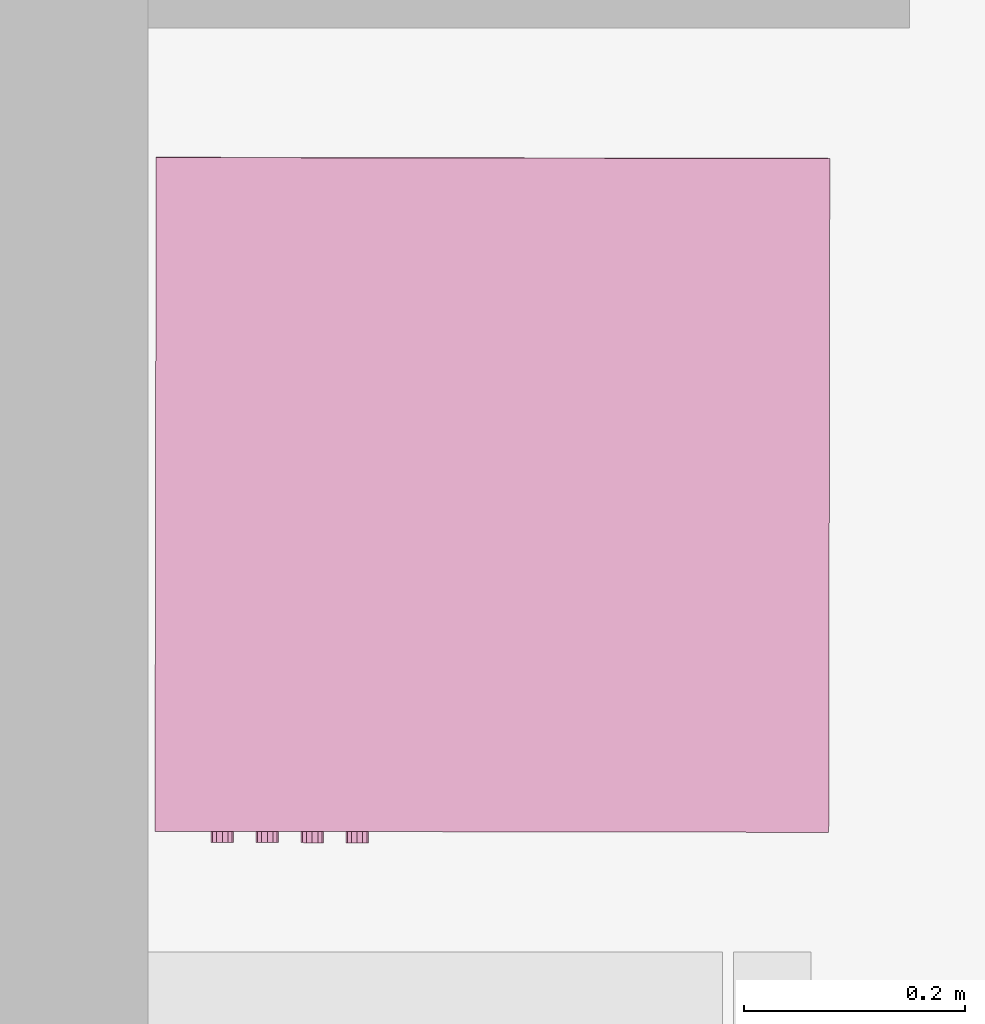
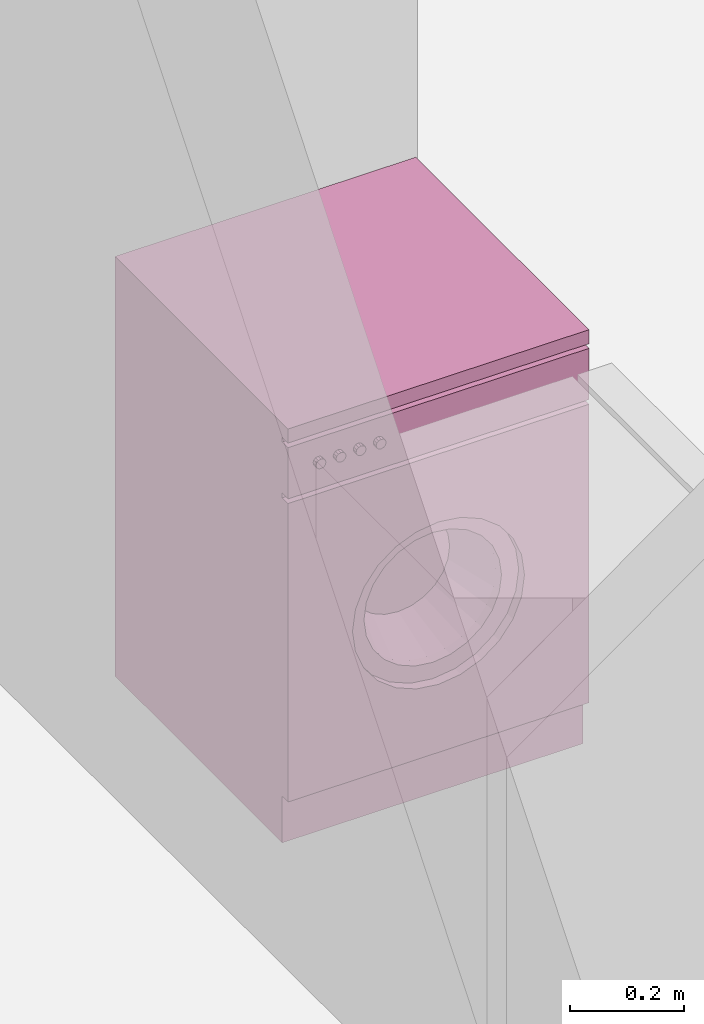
# One storey, part 123 of 164: 1 furnishing.
"""IFC2X3 building model written with IfcOpenShell, lengths in millimetres."""

from ifc_helpers import new_model, entity, si_unit, converted_unit, derived_unit, money_unit, direction, frame, origin_with_axes, place, context, subcontext, project, spatial, open_shell, faceted_brep, surface_model, source, transform, mapped, type_object, element, save


model = new_model("IFC2X3")

# Units and contexts
model_context = context("Model", 3, precision=0.01, world=origin_with_axes(), true_north=direction((0.0, 1.0)))
body_context = subcontext(model_context, "Body", "Model", "MODEL_VIEW")
ifc_project = project(units=[si_unit("LENGTHUNIT", "METRE", prefix="MILLI"), si_unit("AREAUNIT", "SQUARE_METRE"), si_unit("VOLUMEUNIT", "CUBIC_METRE"), converted_unit("PLANEANGLEUNIT", "DEGREE", entity("IfcPlaneAngleMeasure", 0.0174532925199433), si_unit("PLANEANGLEUNIT", "RADIAN"), dimensions=[0, 0, 0, 0, 0, 0, 0]), money_unit("USD"), converted_unit("TIMEUNIT", "Year", entity("IfcTimeMeasure", 31557600.0), si_unit("TIMEUNIT", "SECOND"), dimensions=[0, 0, 1, 0, 0, 0, 0]), si_unit("MASSUNIT", "GRAM", prefix="KILO"), si_unit("THERMODYNAMICTEMPERATUREUNIT", "DEGREE_CELSIUS"), si_unit("LUMINOUSINTENSITYUNIT", "LUMEN"), si_unit("ENERGYUNIT", "JOULE", prefix="MEGA"), derived_unit("THERMALCONDUCTANCEUNIT", [(si_unit("POWERUNIT", "WATT"), 1), (si_unit("LENGTHUNIT", "METRE"), -1), (si_unit("THERMODYNAMICTEMPERATUREUNIT", "KELVIN"), -1)]), derived_unit("SPECIFICHEATCAPACITYUNIT", [(si_unit("ENERGYUNIT", "JOULE"), 1), (si_unit("MASSUNIT", "GRAM", prefix="KILO"), -1), (si_unit("THERMODYNAMICTEMPERATUREUNIT", "KELVIN"), -1)]), derived_unit("MASSDENSITYUNIT", [(si_unit("MASSUNIT", "GRAM", prefix="KILO"), 1), (si_unit("VOLUMEUNIT", "CUBIC_METRE"), -1)])], contexts=[model_context])

# Site, building, storey
site_placement = place(None, origin_with_axes())
site = spatial("IfcSite", under=ifc_project, at=site_placement, Name="Site", CompositionType="ELEMENT")
building_placement = place(site_placement, origin_with_axes())
building = spatial("IfcBuilding", under=site, at=building_placement, Name="Bâtiment", CompositionType="ELEMENT")
storey_placement = place(building_placement, frame((0.0, 0.0, 5750.0), z_axis=(0.0, 0.0, 1.0), x_axis=(1.0, 0.0, 0.0)))
storey = spatial("IfcBuildingStorey", under=building, at=storey_placement, Name="Etage1", CompositionType="ELEMENT", Elevation=5750.0)

# Furnishing
furnishing_element_type = type_object("IfcFurnishingElementType", Name="Machine à laver")
shared_shape = source(origin_with_axes(), body_context, "Body", "SurfaceModel", [
    faceted_brep([(0.0, 20.33333333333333, 100.0), (610.0, 20.33333333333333, 100.0), (610.0, 0.0, 100.0), (0.0, 0.0, 100.0), (0.0, 20.33333333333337, 740.0), (610.0, 20.33333333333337, 740.0), (479.2857142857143, 20.33333333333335, 420.0000000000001), (473.3470725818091, 20.33333333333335, 465.1084621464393), (455.935856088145, 20.33333333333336, 507.1428571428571), (428.2386104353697, 20.33333333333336, 543.2386104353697), (392.1428571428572, 20.33333333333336, 570.935856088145), (350.1084621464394, 20.33333333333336, 588.347072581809), (305.0000000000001, 20.33333333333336, 594.2857142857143), (259.8915378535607, 20.33333333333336, 588.347072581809), (217.8571428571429, 20.33333333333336, 570.9358560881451), (181.7613895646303, 20.33333333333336, 543.2386104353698), (154.0641439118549, 20.33333333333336, 507.1428571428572), (136.6529274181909, 20.33333333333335, 465.1084621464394), (130.7142857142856, 20.33333333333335, 420.0000000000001), (136.6529274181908, 20.33333333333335, 374.8915378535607), (154.0641439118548, 20.33333333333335, 332.8571428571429), (181.7613895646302, 20.33333333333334, 296.7613895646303), (217.8571428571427, 20.33333333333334, 269.064143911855), (259.8915378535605, 20.33333333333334, 251.6529274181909), (304.9999999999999, 20.33333333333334, 245.7142857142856), (350.1084621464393, 20.33333333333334, 251.6529274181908), (392.1428571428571, 20.33333333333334, 269.0641439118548), (428.2386104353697, 20.33333333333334, 296.7613895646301), (455.935856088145, 20.33333333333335, 332.8571428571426), (473.3470725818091, 20.33333333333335, 374.8915378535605), (610.0, 0.0, 740.0), (0.0, 0.0, 740.0), (479.2857142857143, 0.0, 420.0000000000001), (473.3470725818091, 0.0, 374.8915378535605), (455.935856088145, 0.0, 332.8571428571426), (428.2386104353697, 0.0, 296.7613895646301), (392.1428571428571, 0.0, 269.0641439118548), (350.1084621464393, 0.0, 251.6529274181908), (304.9999999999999, 0.0, 245.7142857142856), (259.8915378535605, 0.0, 251.6529274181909), (217.8571428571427, 0.0, 269.064143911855), (181.7613895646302, 0.0, 296.7613895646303), (154.0641439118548, 0.0, 332.8571428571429), (136.6529274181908, 0.0, 374.8915378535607), (130.7142857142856, 0.0, 420.0000000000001), (136.6529274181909, 0.0, 465.1084621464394), (154.0641439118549, 0.0, 507.1428571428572), (181.7613895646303, 0.0, 543.2386104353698), (217.8571428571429, 0.0, 570.9358560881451), (259.8915378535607, 0.0, 588.347072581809), (305.0000000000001, 0.0, 594.2857142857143), (350.1084621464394, 0.0, 588.347072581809), (392.1428571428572, 0.0, 570.935856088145), (428.2386104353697, 0.0, 543.2386104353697), (455.935856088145, 0.0, 507.1428571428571), (473.3470725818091, 0.0, 465.1084621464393)], [[[0, 1, 2, 3]], [[0, 4, 5, 1], [6, 7, 8, 9, 10, 11, 12, 13, 14, 15, 16, 17, 18, 19, 20, 21, 22, 23, 24, 25, 26, 27, 28, 29]], [[1, 5, 30, 2]], [[3, 2, 30, 31], [32, 33, 34, 35, 36, 37, 38, 39, 40, 41, 42, 43, 44, 45, 46, 47, 48, 49, 50, 51, 52, 53, 54, 55]], [[4, 0, 3, 31]], [[5, 4, 31, 30]], [[7, 6, 32, 55]], [[8, 7, 55, 54]], [[9, 8, 54, 53]], [[10, 9, 53, 52]], [[11, 10, 52, 51]], [[12, 11, 51, 50]], [[13, 12, 50, 49]], [[14, 13, 49, 48]], [[15, 14, 48, 47]], [[16, 15, 47, 46]], [[17, 16, 46, 45]], [[18, 17, 45, 44]], [[19, 18, 44, 43]], [[20, 19, 43, 42]], [[21, 20, 42, 41]], [[22, 21, 41, 40]], [[23, 22, 40, 39]], [[24, 23, 39, 38]], [[25, 24, 38, 37]], [[26, 25, 37, 36]], [[27, 26, 36, 35]], [[28, 27, 35, 34]], [[29, 28, 34, 33]], [[6, 29, 33, 32]]]),
    faceted_brep([(479.2857142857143, 40.66666666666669, 420.0000000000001), (473.3470725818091, 40.66666666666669, 465.1084621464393), (473.3470725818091, 20.33333333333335, 465.1084621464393), (479.2857142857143, 20.33333333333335, 420.0000000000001), (473.3470725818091, 40.66666666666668, 374.8915378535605), (455.935856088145, 40.66666666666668, 332.8571428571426), (428.2386104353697, 40.66666666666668, 296.7613895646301), (392.1428571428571, 40.66666666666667, 269.0641439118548), (350.1084621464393, 40.66666666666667, 251.6529274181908), (304.9999999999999, 40.66666666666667, 245.7142857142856), (259.8915378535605, 40.66666666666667, 251.6529274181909), (217.8571428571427, 40.66666666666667, 269.064143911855), (181.7613895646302, 40.66666666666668, 296.7613895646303), (154.0641439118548, 40.66666666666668, 332.8571428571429), (136.6529274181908, 40.66666666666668, 374.8915378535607), (130.7142857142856, 40.66666666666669, 420.0000000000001), (136.6529274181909, 40.66666666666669, 465.1084621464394), (154.0641439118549, 40.66666666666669, 507.1428571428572), (181.7613895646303, 40.66666666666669, 543.2386104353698), (217.8571428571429, 40.66666666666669, 570.9358560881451), (259.8915378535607, 40.66666666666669, 588.347072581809), (305.0000000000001, 40.66666666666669, 594.2857142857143), (350.1084621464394, 40.66666666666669, 588.347072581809), (392.1428571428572, 40.66666666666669, 570.935856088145), (428.2386104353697, 40.66666666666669, 543.2386104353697), (455.935856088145, 40.66666666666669, 507.1428571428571), (444.4285714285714, 40.66666666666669, 420.0000000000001), (439.6776580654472, 40.66666666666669, 456.0867697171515), (425.748684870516, 40.66666666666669, 489.7142857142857), (403.5908883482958, 40.66666666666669, 518.5908883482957), (374.7142857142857, 40.66666666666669, 540.748684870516), (341.0867697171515, 40.66666666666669, 554.6776580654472), (305.0000000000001, 40.66666666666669, 559.4285714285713), (268.9132302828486, 40.66666666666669, 554.6776580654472), (235.2857142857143, 40.66666666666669, 540.7486848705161), (206.4091116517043, 40.66666666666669, 518.5908883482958), (184.251315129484, 40.66666666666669, 489.7142857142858), (170.3223419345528, 40.66666666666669, 456.0867697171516), (165.5714285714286, 40.66666666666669, 420.0000000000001), (170.3223419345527, 40.66666666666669, 383.9132302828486), (184.2513151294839, 40.66666666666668, 350.2857142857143), (206.4091116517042, 40.66666666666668, 321.4091116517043), (235.2857142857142, 40.66666666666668, 299.251315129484), (268.9132302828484, 40.66666666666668, 285.3223419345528), (304.9999999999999, 40.66666666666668, 280.5714285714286), (341.0867697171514, 40.66666666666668, 285.3223419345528), (374.7142857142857, 40.66666666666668, 299.2513151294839), (403.5908883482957, 40.66666666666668, 321.4091116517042), (425.748684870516, 40.66666666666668, 350.2857142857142), (439.6776580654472, 40.66666666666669, 383.9132302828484), (455.935856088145, 20.33333333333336, 507.1428571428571), (428.2386104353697, 20.33333333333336, 543.2386104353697), (392.1428571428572, 20.33333333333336, 570.935856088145), (350.1084621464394, 20.33333333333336, 588.347072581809), (305.0000000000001, 20.33333333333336, 594.2857142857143), (259.8915378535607, 20.33333333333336, 588.347072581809), (217.8571428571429, 20.33333333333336, 570.9358560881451), (181.7613895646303, 20.33333333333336, 543.2386104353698), (154.0641439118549, 20.33333333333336, 507.1428571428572), (136.6529274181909, 20.33333333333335, 465.1084621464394), (130.7142857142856, 20.33333333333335, 420.0000000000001), (136.6529274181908, 20.33333333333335, 374.8915378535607), (154.0641439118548, 20.33333333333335, 332.8571428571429), (181.7613895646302, 20.33333333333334, 296.7613895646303), (217.8571428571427, 20.33333333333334, 269.064143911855), (259.8915378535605, 20.33333333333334, 251.6529274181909), (304.9999999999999, 20.33333333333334, 245.7142857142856), (350.1084621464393, 20.33333333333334, 251.6529274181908), (392.1428571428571, 20.33333333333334, 269.0641439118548), (428.2386104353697, 20.33333333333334, 296.7613895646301), (455.935856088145, 20.33333333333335, 332.8571428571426), (473.3470725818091, 20.33333333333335, 374.8915378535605), (444.4285714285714, 20.33333333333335, 420.0000000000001), (439.6776580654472, 20.33333333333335, 383.9132302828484), (425.748684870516, 20.33333333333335, 350.2857142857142), (403.5908883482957, 20.33333333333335, 321.4091116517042), (374.7142857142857, 20.33333333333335, 299.2513151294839), (341.0867697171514, 20.33333333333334, 285.3223419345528), (304.9999999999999, 20.33333333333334, 280.5714285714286), (268.9132302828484, 20.33333333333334, 285.3223419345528), (235.2857142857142, 20.33333333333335, 299.251315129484), (206.4091116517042, 20.33333333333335, 321.4091116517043), (184.2513151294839, 20.33333333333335, 350.2857142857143), (170.3223419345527, 20.33333333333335, 383.9132302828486), (165.5714285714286, 20.33333333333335, 420.0000000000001), (170.3223419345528, 20.33333333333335, 456.0867697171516), (184.251315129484, 20.33333333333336, 489.7142857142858), (206.4091116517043, 20.33333333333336, 518.5908883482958), (235.2857142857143, 20.33333333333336, 540.7486848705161), (268.9132302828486, 20.33333333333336, 554.6776580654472), (305.0000000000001, 20.33333333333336, 559.4285714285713), (341.0867697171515, 20.33333333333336, 554.6776580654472), (374.7142857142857, 20.33333333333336, 540.748684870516), (403.5908883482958, 20.33333333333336, 518.5908883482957), (425.748684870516, 20.33333333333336, 489.7142857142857), (439.6776580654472, 20.33333333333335, 456.0867697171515)], [[[0, 1, 2, 3]], [[0, 4, 5, 6, 7, 8, 9, 10, 11, 12, 13, 14, 15, 16, 17, 18, 19, 20, 21, 22, 23, 24, 25, 1], [26, 27, 28, 29, 30, 31, 32, 33, 34, 35, 36, 37, 38, 39, 40, 41, 42, 43, 44, 45, 46, 47, 48, 49]], [[1, 25, 50, 2]], [[3, 2, 50, 51, 52, 53, 54, 55, 56, 57, 58, 59, 60, 61, 62, 63, 64, 65, 66, 67, 68, 69, 70, 71], [72, 73, 74, 75, 76, 77, 78, 79, 80, 81, 82, 83, 84, 85, 86, 87, 88, 89, 90, 91, 92, 93, 94, 95]], [[4, 0, 3, 71]], [[5, 4, 71, 70]], [[6, 5, 70, 69]], [[7, 6, 69, 68]], [[8, 7, 68, 67]], [[9, 8, 67, 66]], [[10, 9, 66, 65]], [[11, 10, 65, 64]], [[12, 11, 64, 63]], [[13, 12, 63, 62]], [[14, 13, 62, 61]], [[15, 14, 61, 60]], [[16, 15, 60, 59]], [[17, 16, 59, 58]], [[18, 17, 58, 57]], [[19, 18, 57, 56]], [[20, 19, 56, 55]], [[21, 20, 55, 54]], [[22, 21, 54, 53]], [[23, 22, 53, 52]], [[24, 23, 52, 51]], [[25, 24, 51, 50]], [[27, 26, 72, 95]], [[28, 27, 95, 94]], [[29, 28, 94, 93]], [[30, 29, 93, 92]], [[31, 30, 92, 91]], [[32, 31, 91, 90]], [[33, 32, 90, 89]], [[34, 33, 89, 88]], [[35, 34, 88, 87]], [[36, 35, 87, 86]], [[37, 36, 86, 85]], [[38, 37, 85, 84]], [[39, 38, 84, 83]], [[40, 39, 83, 82]], [[41, 40, 82, 81]], [[42, 41, 81, 80]], [[43, 42, 80, 79]], [[44, 43, 79, 78]], [[45, 44, 78, 77]], [[46, 45, 77, 76]], [[47, 46, 76, 75]], [[48, 47, 75, 74]], [[49, 48, 74, 73]], [[26, 49, 73, 72]]]),
    surface_model("IfcShellBasedSurfaceModel", [(268.9132302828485, 40.6666666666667, 554.6776580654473), (305.0, 40.6666666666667, 559.4285714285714), (305.0, 142.3333333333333, 524.5714285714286), (277.9349227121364, 142.3333333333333, 521.0082435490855), (341.0867697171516, 40.6666666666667, 554.6776580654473), (332.0650772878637, 142.3333333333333, 521.0082435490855), (357.2857142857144, 142.3333333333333, 510.5615136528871), (378.9431662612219, 142.3333333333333, 493.9431662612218), (395.5615136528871, 142.3333333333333, 472.2857142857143), (406.0082435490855, 142.3333333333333, 447.0650772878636), (409.5714285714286, 142.3333333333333, 420.0), (406.0082435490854, 142.3333333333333, 392.9349227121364), (395.561513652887, 142.3333333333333, 367.7142857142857), (378.9431662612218, 142.3333333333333, 346.0568337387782), (357.2857142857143, 142.3333333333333, 329.438486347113), (332.0650772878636, 142.3333333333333, 318.9917564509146), (304.9999999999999, 142.3333333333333, 315.4285714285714), (277.9349227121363, 142.3333333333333, 318.9917564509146), (252.7142857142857, 142.3333333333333, 329.438486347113), (231.0568337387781, 142.3333333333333, 346.0568337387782), (214.4384863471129, 142.3333333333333, 367.7142857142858), (203.9917564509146, 142.3333333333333, 392.9349227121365), (200.4285714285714, 142.3333333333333, 420.0000000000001), (203.9917564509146, 142.3333333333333, 447.0650772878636), (214.438486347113, 142.3333333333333, 472.2857142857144), (231.0568337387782, 142.3333333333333, 493.9431662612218), (252.7142857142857, 142.3333333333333, 510.5615136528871), (235.2857142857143, 40.6666666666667, 540.7486848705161), (374.7142857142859, 40.6666666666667, 540.7486848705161), (403.5908883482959, 40.66666666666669, 518.5908883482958), (425.7486848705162, 40.66666666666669, 489.7142857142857), (439.6776580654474, 40.66666666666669, 456.0867697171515), (444.4285714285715, 40.66666666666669, 419.9999999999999), (439.6776580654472, 40.66666666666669, 383.9132302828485), (425.748684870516, 40.66666666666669, 350.2857142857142), (403.5908883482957, 40.66666666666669, 321.4091116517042), (374.7142857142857, 40.66666666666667, 299.2513151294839), (341.0867697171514, 40.66666666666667, 285.3223419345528), (304.9999999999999, 40.66666666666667, 280.5714285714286), (268.9132302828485, 40.66666666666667, 285.3223419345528), (235.2857142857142, 40.66666666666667, 299.251315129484), (206.4091116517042, 40.66666666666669, 321.4091116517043), (184.2513151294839, 40.66666666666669, 350.2857142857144), (170.3223419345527, 40.66666666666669, 383.9132302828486), (165.5714285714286, 40.66666666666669, 420.0000000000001), (170.3223419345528, 40.66666666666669, 456.0867697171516), (184.251315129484, 40.66666666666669, 489.7142857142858), (206.4091116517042, 40.66666666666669, 518.5908883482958)], [open_shell([[[0, 1, 2, 3]], [[1, 4, 5, 2]], [[2, 5, 6, 7, 8, 9, 10, 11, 12, 13, 14, 15, 16, 17, 18, 19, 20, 21, 22, 23, 24, 25, 26, 3]], [[27, 0, 3, 26]], [[4, 28, 6, 5]], [[28, 29, 7, 6]], [[29, 30, 8, 7]], [[30, 31, 9, 8]], [[31, 32, 10, 9]], [[32, 33, 11, 10]], [[33, 34, 12, 11]], [[34, 35, 13, 12]], [[35, 36, 14, 13]], [[36, 37, 15, 14]], [[37, 38, 16, 15]], [[38, 39, 17, 16]], [[39, 40, 18, 17]], [[40, 41, 19, 18]], [[41, 42, 20, 19]], [[42, 43, 21, 20]], [[43, 44, 22, 21]], [[44, 45, 23, 22]], [[45, 46, 24, 23]], [[46, 47, 25, 24]], [[47, 27, 26, 25]]])]),
    surface_model("IfcShellBasedSurfaceModel", [(0.0, 20.33333333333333, 100.0), (0.0, 20.33333333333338, 870.0), (0.0, 610.0, 870.0), (0.0, 610.0, 99.99999999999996)], [open_shell([[[0, 1, 2, 3]]])]),
    surface_model("IfcShellBasedSurfaceModel", [(610.0, 20.33333333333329, 100.0), (610.0, 20.33333333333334, 870.0), (610.0, 610.0, 870.0), (610.0, 610.0, 99.99999999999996)], [open_shell([[[0, 1, 2, 3]]])]),
    surface_model("IfcShellBasedSurfaceModel", [(0.0, 610.0, 100.0), (0.0, 610.0, 870.0), (610.0, 610.0, 870.0), (610.0, 610.0, 100.0)], [open_shell([[[0, 1, 2, 3]]])]),
    faceted_brep([(0.0, 20.33333333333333, 0.0), (610.0, 20.33333333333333, 0.0), (610.0, 20.33333333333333, 100.0), (0.0, 20.33333333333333, 100.0), (0.0, 610.3333333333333, 0.0), (610.0, 610.3333333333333, 0.0), (610.0, 610.3333333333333, 100.0), (0.0, 610.3333333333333, 100.0)], [[[0, 1, 2, 3]], [[0, 4, 5, 1]], [[1, 5, 6, 2]], [[3, 2, 6, 7]], [[4, 0, 3, 7]], [[5, 4, 7, 6]]]),
    faceted_brep([(0.0, 20.33333333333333, 750.0), (610.0, 20.33333333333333, 750.0), (610.0, 0.0, 750.0), (0.0, 0.0, 750.0), (0.0, 20.33333333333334, 860.0), (610.0, 20.33333333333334, 860.0), (610.0, 0.0, 860.0), (0.0, 0.0, 860.0)], [[[0, 1, 2, 3]], [[0, 4, 5, 1]], [[1, 5, 6, 2]], [[3, 2, 6, 7]], [[4, 0, 3, 7]], [[5, 4, 7, 6]]]),
    surface_model("IfcShellBasedSurfaceModel", [(0.0, 20.33333333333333, 739.8333333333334), (0.0, 20.33333333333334, 869.8333333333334), (610.0, 20.33333333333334, 869.8333333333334), (610.0, 20.33333333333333, 739.8333333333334)], [open_shell([[[0, 1, 2, 3]]])]),
    faceted_brep([(0.0, 0.0, 870.0), (610.0, 0.0, 870.0), (610.0, 0.0, 900.0), (0.0, 0.0, 900.0), (0.0, 610.0, 870.0), (610.0, 610.0, 870.0), (610.0, 610.0, 900.0), (0.0, 610.0, 900.0)], [[[0, 1, 2, 3]], [[0, 4, 5, 1]], [[1, 5, 6, 2]], [[3, 2, 6, 7]], [[4, 0, 3, 7]], [[5, 4, 7, 6]]]),
    faceted_brep([(69.80459160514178, 0.0, 804.9166666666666), (66.08333333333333, 0.0, 801.1954083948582), (60.99999999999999, 0.0, 799.8333333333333), (55.91666666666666, 0.0, 801.1954083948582), (52.1954083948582, 0.0, 804.9166666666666), (50.83333333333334, 0.0, 809.9999999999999), (52.19540839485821, 0.0, 815.0833333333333), (55.91666666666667, 0.0, 818.8045916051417), (61.0, 0.0, 820.1666666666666), (66.08333333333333, 0.0, 818.8045916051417), (69.8045916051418, 0.0, 815.0833333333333), (71.16666666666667, 0.0, 809.9999999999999), (69.80459160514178, -10.16666666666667, 804.9166666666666), (66.08333333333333, -10.16666666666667, 801.1954083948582), (60.99999999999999, -10.16666666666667, 799.8333333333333), (55.91666666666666, -10.16666666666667, 801.1954083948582), (52.1954083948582, -10.16666666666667, 804.9166666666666), (50.83333333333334, -10.16666666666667, 809.9999999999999), (52.19540839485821, -10.16666666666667, 815.0833333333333), (55.91666666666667, -10.16666666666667, 818.8045916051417), (61.0, -10.16666666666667, 820.1666666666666), (66.08333333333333, -10.16666666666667, 818.8045916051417), (69.8045916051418, -10.16666666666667, 815.0833333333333), (71.16666666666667, -10.16666666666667, 809.9999999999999)], [[[0, 1, 2, 3, 4, 5, 6, 7, 8, 9, 10, 11]], [[1, 0, 12, 13]], [[2, 1, 13, 14]], [[3, 2, 14, 15]], [[4, 3, 15, 16]], [[5, 4, 16, 17]], [[6, 5, 17, 18]], [[7, 6, 18, 19]], [[8, 7, 19, 20]], [[9, 8, 20, 21]], [[10, 9, 21, 22]], [[11, 10, 22, 23]], [[0, 11, 23, 12]], [[12, 23, 22, 21, 20, 19, 18, 17, 16, 15, 14, 13]]]),
    faceted_brep([(110.4712582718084, 0.0, 804.9166666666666), (106.75, 0.0, 801.1954083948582), (101.6666666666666, 0.0, 799.8333333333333), (96.58333333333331, 0.0, 801.1954083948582), (92.86207506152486, 0.0, 804.9166666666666), (91.49999999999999, 0.0, 809.9999999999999), (92.86207506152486, 0.0, 815.0833333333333), (96.58333333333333, 0.0, 818.8045916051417), (101.6666666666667, 0.0, 820.1666666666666), (106.75, 0.0, 818.8045916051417), (110.4712582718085, 0.0, 815.0833333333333), (111.8333333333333, 0.0, 809.9999999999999), (110.4712582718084, -10.16666666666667, 804.9166666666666), (106.75, -10.16666666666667, 801.1954083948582), (101.6666666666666, -10.16666666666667, 799.8333333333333), (96.58333333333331, -10.16666666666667, 801.1954083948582), (92.86207506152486, -10.16666666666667, 804.9166666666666), (91.49999999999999, -10.16666666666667, 809.9999999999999), (92.86207506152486, -10.16666666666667, 815.0833333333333), (96.58333333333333, -10.16666666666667, 818.8045916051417), (101.6666666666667, -10.16666666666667, 820.1666666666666), (106.75, -10.16666666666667, 818.8045916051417), (110.4712582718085, -10.16666666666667, 815.0833333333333), (111.8333333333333, -10.16666666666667, 809.9999999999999)], [[[0, 1, 2, 3, 4, 5, 6, 7, 8, 9, 10, 11]], [[1, 0, 12, 13]], [[2, 1, 13, 14]], [[3, 2, 14, 15]], [[4, 3, 15, 16]], [[5, 4, 16, 17]], [[6, 5, 17, 18]], [[7, 6, 18, 19]], [[8, 7, 19, 20]], [[9, 8, 20, 21]], [[10, 9, 21, 22]], [[11, 10, 22, 23]], [[0, 11, 23, 12]], [[12, 23, 22, 21, 20, 19, 18, 17, 16, 15, 14, 13]]]),
    faceted_brep([(151.1379249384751, 0.0, 804.9166666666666), (147.4166666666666, 0.0, 801.1954083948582), (142.3333333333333, 0.0, 799.8333333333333), (137.25, 0.0, 801.1954083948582), (133.5287417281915, 0.0, 804.9166666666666), (132.1666666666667, 0.0, 809.9999999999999), (133.5287417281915, 0.0, 815.0833333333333), (137.25, 0.0, 818.8045916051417), (142.3333333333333, 0.0, 820.1666666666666), (147.4166666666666, 0.0, 818.8045916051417), (151.1379249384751, 0.0, 815.0833333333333), (152.5, 0.0, 809.9999999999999), (151.1379249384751, -10.16666666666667, 804.9166666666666), (147.4166666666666, -10.16666666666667, 801.1954083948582), (142.3333333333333, -10.16666666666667, 799.8333333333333), (137.25, -10.16666666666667, 801.1954083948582), (133.5287417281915, -10.16666666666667, 804.9166666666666), (132.1666666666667, -10.16666666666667, 809.9999999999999), (133.5287417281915, -10.16666666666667, 815.0833333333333), (137.25, -10.16666666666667, 818.8045916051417), (142.3333333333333, -10.16666666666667, 820.1666666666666), (147.4166666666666, -10.16666666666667, 818.8045916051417), (151.1379249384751, -10.16666666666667, 815.0833333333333), (152.5, -10.16666666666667, 809.9999999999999)], [[[0, 1, 2, 3, 4, 5, 6, 7, 8, 9, 10, 11]], [[1, 0, 12, 13]], [[2, 1, 13, 14]], [[3, 2, 14, 15]], [[4, 3, 15, 16]], [[5, 4, 16, 17]], [[6, 5, 17, 18]], [[7, 6, 18, 19]], [[8, 7, 19, 20]], [[9, 8, 20, 21]], [[10, 9, 21, 22]], [[11, 10, 22, 23]], [[0, 11, 23, 12]], [[12, 23, 22, 21, 20, 19, 18, 17, 16, 15, 14, 13]]]),
    faceted_brep([(191.8045916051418, 0.0, 804.9166666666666), (188.0833333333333, 0.0, 801.1954083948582), (183.0, 0.0, 799.8333333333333), (177.9166666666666, 0.0, 801.1954083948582), (174.1954083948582, 0.0, 804.9166666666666), (172.8333333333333, 0.0, 809.9999999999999), (174.1954083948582, 0.0, 815.0833333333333), (177.9166666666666, 0.0, 818.8045916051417), (183.0, 0.0, 820.1666666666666), (188.0833333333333, 0.0, 818.8045916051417), (191.8045916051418, 0.0, 815.0833333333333), (193.1666666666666, 0.0, 809.9999999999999), (191.8045916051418, -10.16666666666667, 804.9166666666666), (188.0833333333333, -10.16666666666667, 801.1954083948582), (183.0, -10.16666666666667, 799.8333333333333), (177.9166666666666, -10.16666666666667, 801.1954083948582), (174.1954083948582, -10.16666666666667, 804.9166666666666), (172.8333333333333, -10.16666666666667, 809.9999999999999), (174.1954083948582, -10.16666666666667, 815.0833333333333), (177.9166666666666, -10.16666666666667, 818.8045916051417), (183.0, -10.16666666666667, 820.1666666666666), (188.0833333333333, -10.16666666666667, 818.8045916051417), (191.8045916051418, -10.16666666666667, 815.0833333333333), (193.1666666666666, -10.16666666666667, 809.9999999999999)], [[[0, 1, 2, 3, 4, 5, 6, 7, 8, 9, 10, 11]], [[1, 0, 12, 13]], [[2, 1, 13, 14]], [[3, 2, 14, 15]], [[4, 3, 15, 16]], [[5, 4, 16, 17]], [[6, 5, 17, 18]], [[7, 6, 18, 19]], [[8, 7, 19, 20]], [[9, 8, 20, 21]], [[10, 9, 21, 22]], [[11, 10, 22, 23]], [[0, 11, 23, 12]], [[12, 23, 22, 21, 20, 19, 18, 17, 16, 15, 14, 13]]]),
])
furnishing_placement = place(storey_placement, frame((2225898.594927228, -630948.3216524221, 0.0), z_axis=(0.0, 0.0, 1.0), x_axis=(0.9999986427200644, -0.001647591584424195, 0.0)))
element("IfcFurnishingElement", 1, at=furnishing_placement, inside=storey, type_object=furnishing_element_type, Name="Obj.-003", context=body_context, shape_type="MappedRepresentation", body=[
    mapped(shared_shape, transform((0.0, 0.0, 0.0))),
])

save(model, "model.ifc")
